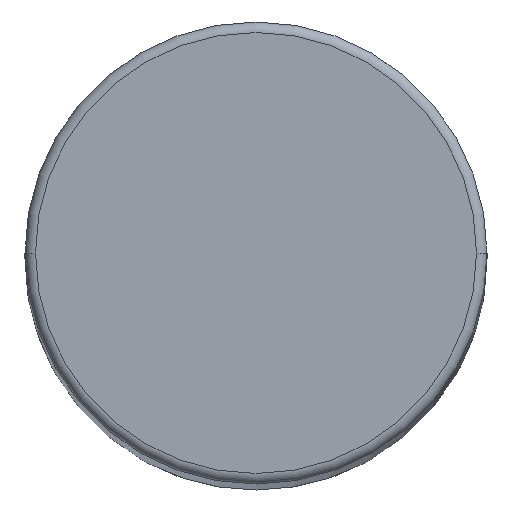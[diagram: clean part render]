
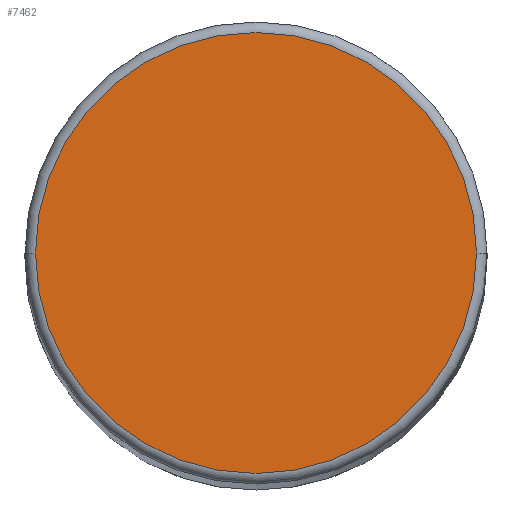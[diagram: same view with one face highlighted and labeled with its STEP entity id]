
A CAD part, top view. The second image highlights one B-rep face of the part: STEP entity #7462.
In plain terms, the highlighted planar face has unit normal (0, 0, 1).
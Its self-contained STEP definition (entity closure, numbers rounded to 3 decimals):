
#1=CARTESIAN_POINT('',(0.,0.,81.75));
#2=DIRECTION('',(0.,0.,1.));
#3=DIRECTION('',(-1.,0.,0.));
#4=AXIS2_PLACEMENT_3D('',#1,#2,#3);
#6=CARTESIAN_POINT('',(0.,0.,81.75));
#7=DIRECTION('',(0.,0.,1.));
#8=DIRECTION('',(1.,0.,0.));
#9=AXIS2_PLACEMENT_3D('',#6,#7,#8);
#6369=CARTESIAN_POINT('',(-10.5,0.,81.75));
#6370=CARTESIAN_POINT('',(10.5,0.,81.75));
#6371=VERTEX_POINT('',#6369);
#6372=VERTEX_POINT('',#6370);
#7451=CARTESIAN_POINT('',(0.,0.,81.75));
#7452=DIRECTION('',(0.,0.,1.));
#7453=DIRECTION('',(1.,0.,0.));
#7454=AXIS2_PLACEMENT_3D('',#7451,#7452,#7453);
#7455=PLANE('',#7454);
#7457=ORIENTED_EDGE('',*,*,#7456,.F.);
#7459=ORIENTED_EDGE('',*,*,#7458,.F.);
#7460=EDGE_LOOP('',(#7457,#7459));
#7461=FACE_OUTER_BOUND('',#7460,.F.);
#7462=ADVANCED_FACE('',(#7461),#7455,.T.);
#5=CIRCLE('',#4,10.5);
#10=CIRCLE('',#9,10.5);
#7456=EDGE_CURVE('',#6371,#6372,#5,.T.);
#7458=EDGE_CURVE('',#6372,#6371,#10,.T.);
